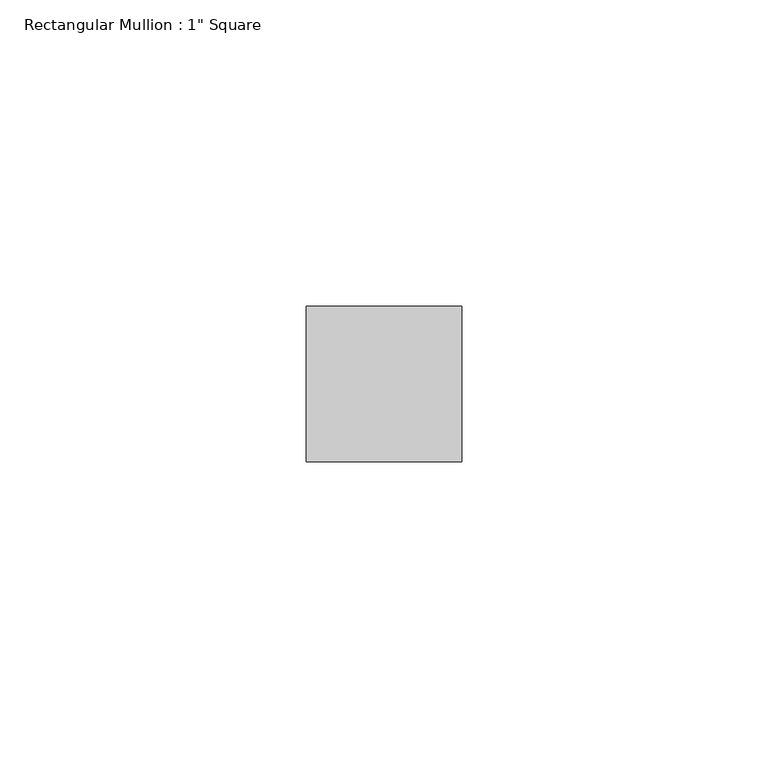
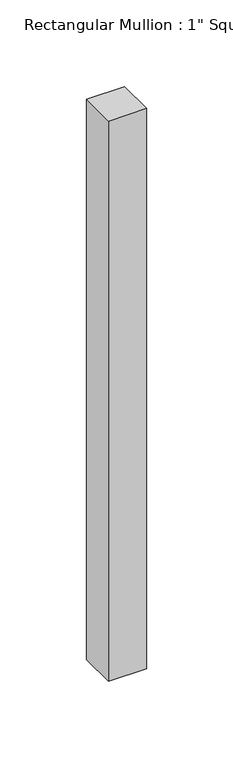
"""IFC4 building model written with IfcOpenShell, lengths in millimetres: member geometry."""

from ifc_helpers import new_model, si_unit, frame, origin, place, context, project, spatial, polyline, outline, extrude, source, transform, mapped, element, save


def member_4ce38149(model_context):
    return source(origin(), model_context, "Body", "SweptSolid", [
        extrude(outline(polyline([(0.0, 12.7), (0.0, -12.7), (-25.4, -12.7), (-25.4, 12.7), (0.0, 12.7)])), frame((0.0, 0.0, -394.8169828), z_axis=(0.0, 0.0, 1.0), x_axis=(1.0, 0.0, 0.0)), (0.0, 0.0, 1.0), 394.8169828),
    ])


if __name__ == "__main__":
    model = new_model("IFC4")
    model_context = context("Model", 3, world=origin())
    ifc_project = project(units=[si_unit("LENGTHUNIT", "METRE", prefix="MILLI")], contexts=[model_context])
    site = spatial("IfcSite", under=ifc_project)
    building = spatial("IfcBuilding", under=site)
    placement = place(None, origin())
    member_shape = member_4ce38149(model_context)
    element("IfcMember", 1, ObjectType="Rectangular Mullion : 1\" Square", at=placement, inside=building, context=model_context, shape_type="MappedRepresentation", body=[
        mapped(member_shape, transform((0.0, 0.0, 0.0), x_axis=(1.0, 0.0, 0.0), y_axis=(0.0, 1.0, 0.0), z_axis=(0.0, 0.0, 1.0))),
    ])
    save(model, "model.ifc")
